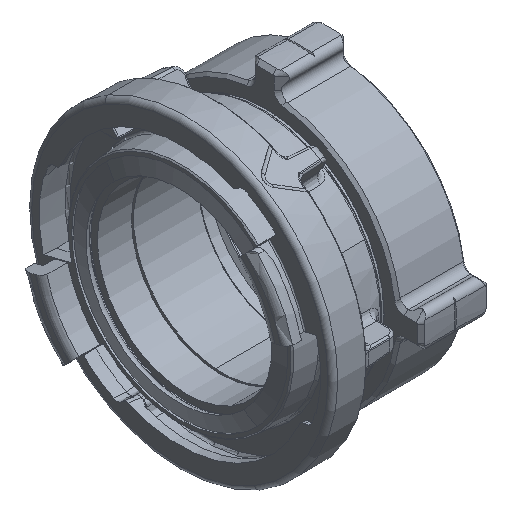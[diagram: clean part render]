
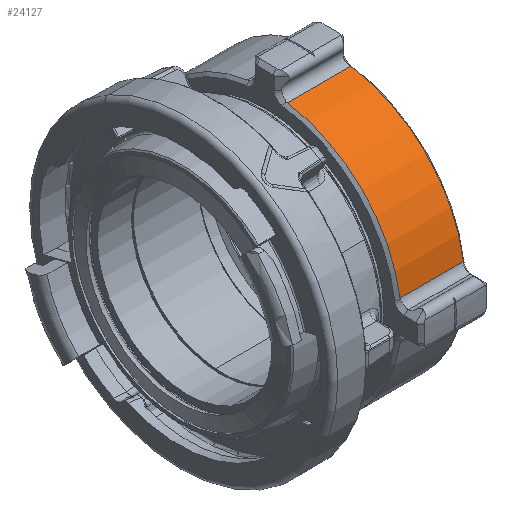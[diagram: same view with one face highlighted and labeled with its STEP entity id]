
A CAD part, isometric view. The second image highlights one B-rep face of the part: STEP entity #24127.
In plain terms, the highlighted cylindrical face has radius 85.725 mm (diameter 171.45 mm), a partial arc.
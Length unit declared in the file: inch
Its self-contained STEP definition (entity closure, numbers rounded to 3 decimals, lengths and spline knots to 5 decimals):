
#6167 = AXIS2_PLACEMENT_3D ( 'NONE', #36577, #36575, #36570 ) ;
#7977 = CIRCLE ( 'NONE', #45986, 3.375 ) ;
#7997 = CIRCLE ( 'NONE', #45987, 3.375 ) ;
#8003 = LINE ( 'NONE', #39016, #8006 ) ;
#8006 = VECTOR ( 'NONE', #39017, 39.37008 ) ;
#8908 = ORIENTED_EDGE ( 'NONE', *, *, #43712, .F. ) ;
#8911 = ORIENTED_EDGE ( 'NONE', *, *, #43710, .F. ) ;
#8914 = ORIENTED_EDGE ( 'NONE', *, *, #43713, .T. ) ;
#8916 = ORIENTED_EDGE ( 'NONE', *, *, #49336, .T. ) ;
#9112 = LINE ( 'NONE', #46549, #9119 ) ;
#9119 = VECTOR ( 'NONE', #46550, 39.37008 ) ;
#23517 = VERTEX_POINT ( 'NONE', #25453 ) ;
#23549 = VERTEX_POINT ( 'NONE', #25473 ) ;
#24127 = ADVANCED_FACE ( 'NONE', ( #28914 ), #28920, .T. ) ;
#25453 = CARTESIAN_POINT ( 'NONE',  ( -1.12231, 2.84092, 3.33777 ) ) ;
#25473 = CARTESIAN_POINT ( 'NONE',  ( -2.7219, 2.84092, 3.33777 ) ) ;
#28914 = FACE_OUTER_BOUND ( 'NONE', #40815, .T. ) ;
#28920 = CYLINDRICAL_SURFACE ( 'NONE', #6167, 3.375 ) ;
#33730 = VERTEX_POINT ( 'NONE', #39408 ) ;
#33747 = VERTEX_POINT ( 'NONE', #39416 ) ;
#36570 = DIRECTION ( 'NONE',  ( 0., 0., -1. ) ) ;
#36575 = DIRECTION ( 'NONE',  ( 1., 0., 0. ) ) ;
#36577 = CARTESIAN_POINT ( 'NONE',  ( -2.8411, 3.34082, 0. ) ) ;
#39016 = CARTESIAN_POINT ( 'NONE',  ( -2.8411, 2.84092, 3.33777 ) ) ;
#39017 = DIRECTION ( 'NONE',  ( 1., 0., 0. ) ) ;
#39022 = CARTESIAN_POINT ( 'NONE',  ( -1.12231, 3.34082, 0. ) ) ;
#39023 = DIRECTION ( 'NONE',  ( 1., 0., 0. ) ) ;
#39024 = DIRECTION ( 'NONE',  ( 0., 0., 1. ) ) ;
#39027 = CARTESIAN_POINT ( 'NONE',  ( -2.7219, 3.34082, 0. ) ) ;
#39028 = DIRECTION ( 'NONE',  ( 1., 0., 0. ) ) ;
#39029 = DIRECTION ( 'NONE',  ( 0., 0., -1. ) ) ;
#39408 = CARTESIAN_POINT ( 'NONE',  ( -2.7219, 0.00305, 0.4999 ) ) ;
#39416 = CARTESIAN_POINT ( 'NONE',  ( -1.12231, 0.00305, 0.4999 ) ) ;
#40815 = EDGE_LOOP ( 'NONE', ( #8908, #8911, #8914, #8916 ) ) ;
#43710 = EDGE_CURVE ( 'NONE', #23549, #23517, #8003, .T. ) ;
#43712 = EDGE_CURVE ( 'NONE', #23517, #33747, #7977, .T. ) ;
#43713 = EDGE_CURVE ( 'NONE', #23549, #33730, #7997, .T. ) ;
#45986 = AXIS2_PLACEMENT_3D ( 'NONE', #39022, #39023, #39024 ) ;
#45987 = AXIS2_PLACEMENT_3D ( 'NONE', #39027, #39028, #39029 ) ;
#46549 = CARTESIAN_POINT ( 'NONE',  ( -2.8411, 0.00305, 0.4999 ) ) ;
#46550 = DIRECTION ( 'NONE',  ( 1., 0., 0. ) ) ;
#49336 = EDGE_CURVE ( 'NONE', #33730, #33747, #9112, .T. ) ;
